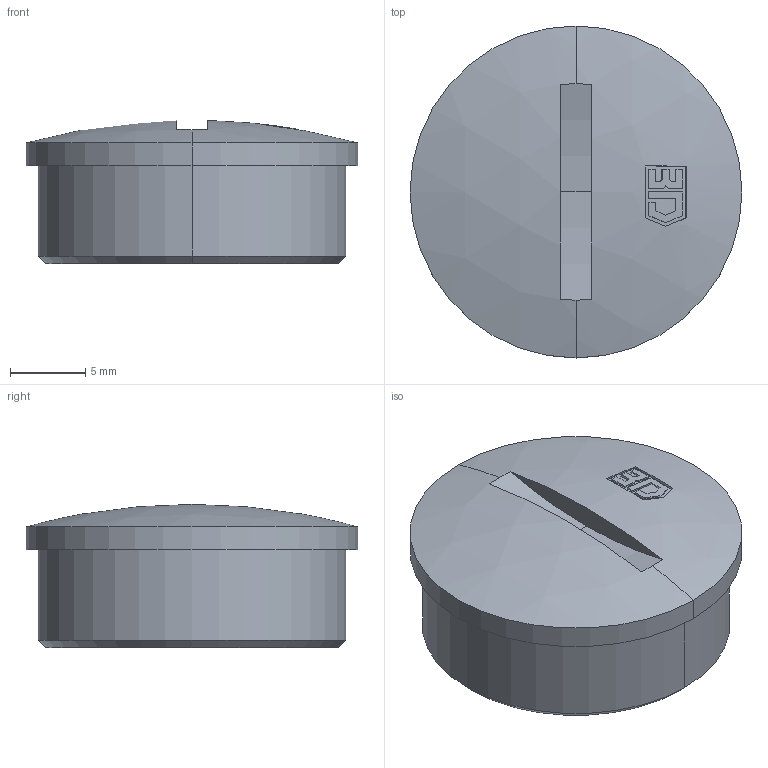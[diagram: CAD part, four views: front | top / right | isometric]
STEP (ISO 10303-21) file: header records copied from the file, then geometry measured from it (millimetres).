
FILE_DESCRIPTION (( 'STEP AP203' ), '1' );
FILE_NAME ('1013 M.STEP', '2005-11-22T08:55:38', ( ' ' ), ( '' ), 'SwSTEP 2.0', 'SolidWorks 2005278', '' );
FILE_SCHEMA (( 'CONFIG_CONTROL_DESIGN' ));
Length unit declared in the file: millimetre
Products named in the file (1): 1013 M
Bounding box: 22 x 22 x 9.49 mm (x, y, z)
Volume: 1468.6 mm3; surface area: 1647.5 mm2
Topology: 1 solids, 1 shells, 54 faces, 137 edges, 90 vertices
Faces by surface type: plane 39, cylinder 8, sphere 5, cone 2
Entity records: 1776 total; most frequent: CARTESIAN_POINT 352, DIRECTION 305, ORIENTED_EDGE 274, EDGE_CURVE 137, AXIS2_PLACEMENT_3D 131, VERTEX_POINT 90, CIRCLE 76, EDGE_LOOP 59
